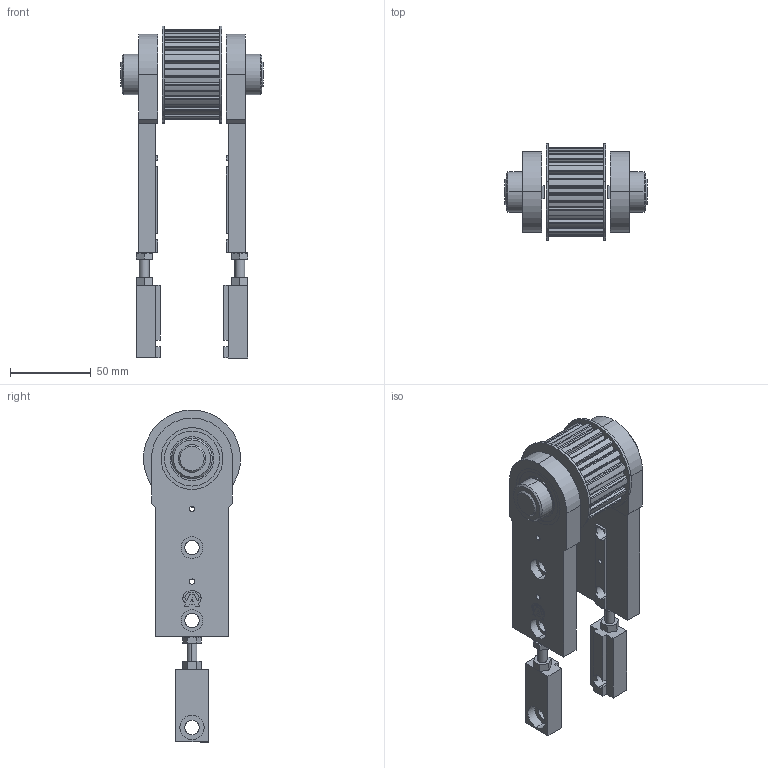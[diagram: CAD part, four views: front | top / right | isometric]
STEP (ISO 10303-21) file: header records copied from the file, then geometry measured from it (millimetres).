
FILE_DESCRIPTION (( 'STEP AP203' ), '1' );
FILE_NAME ('084.050.KIT.032.STEP', '2015-04-10T14:13:23', ( '' ), ( '' ), 'SwSTEP 2.0', 'SolidWorks 2012', '' );
FILE_SCHEMA (( 'CONFIG_CONTROL_DESIGN' ));
Length unit declared in the file: millimetre
Products named in the file (1): 084.050.KIT.032
Bounding box: 88 x 59.95 x 204.98 mm (x, y, z)
Surface area: 65416.3 mm2 (no closed solid volume)
Topology: 0 solids, 13 shells, 403 faces, 1199 edges, 812 vertices
Faces by surface type: plane 182, cylinder 171, bspline 34, cone 12, sphere 4
Entity records: 14204 total; most frequent: CARTESIAN_POINT 3297, ORIENTED_EDGE 2250, DIRECTION 2225, EDGE_CURVE 1189, VERTEX_POINT 806, AXIS2_PLACEMENT_3D 782, VECTOR 661, LINE 661
